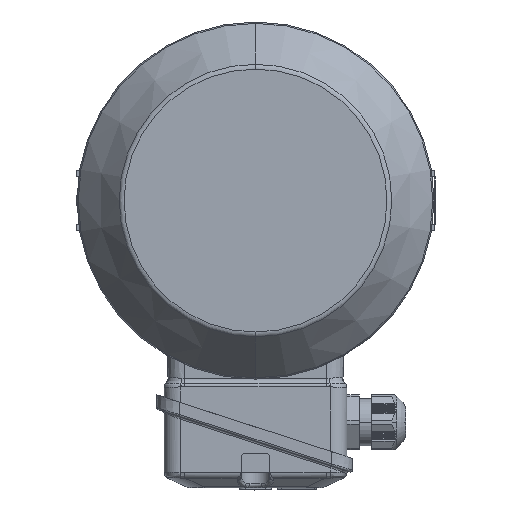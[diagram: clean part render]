
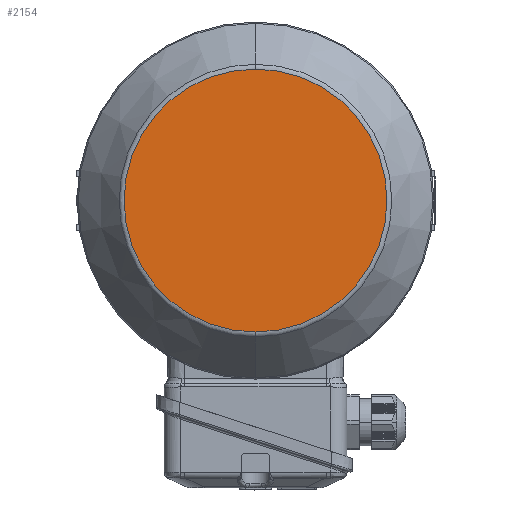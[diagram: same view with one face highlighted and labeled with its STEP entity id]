
A CAD part, left-side view. The second image highlights one B-rep face of the part: STEP entity #2154.
In plain terms, the highlighted planar face has unit normal (-1, 0, 0).
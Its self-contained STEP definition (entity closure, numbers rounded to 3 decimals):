
#1319 = AXIS2_PLACEMENT_3D ( 'NONE', #11390, #14589, #5780 ) ;
#1967 = CARTESIAN_POINT ( 'NONE',  ( -164., 0., -64.037 ) ) ;
#2154 = ADVANCED_FACE ( 'NONE', ( #34025 ), #6594, .T. ) ;
#3480 = VERTEX_POINT ( 'NONE', #1967 ) ;
#5141 = CARTESIAN_POINT ( 'NONE',  ( -164., 0., 0. ) ) ;
#5780 = DIRECTION ( 'NONE',  ( 0., 0., -1. ) ) ;
#6594 = PLANE ( 'NONE',  #12163 ) ;
#9938 = ORIENTED_EDGE ( 'NONE', *, *, #29002, .F. ) ;
#9993 = DIRECTION ( 'NONE',  ( -1., 0., 0. ) ) ;
#11390 = CARTESIAN_POINT ( 'NONE',  ( -164., 0., 0. ) ) ;
#12163 = AXIS2_PLACEMENT_3D ( 'NONE', #18811, #9993, #22009 ) ;
#14589 = DIRECTION ( 'NONE',  ( 1., 0., 0. ) ) ;
#15372 = CIRCLE ( 'NONE', #1319, 64.037 ) ;
#17367 = DIRECTION ( 'NONE',  ( 1., 0., 0. ) ) ;
#18589 = CIRCLE ( 'NONE', #31376, 64.037 ) ;
#18811 = CARTESIAN_POINT ( 'NONE',  ( -164., 0., -64.037 ) ) ;
#20190 = EDGE_CURVE ( 'NONE', #36405, #3480, #18589, .T. ) ;
#22009 = DIRECTION ( 'NONE',  ( 0., 1., 0. ) ) ;
#27071 = EDGE_LOOP ( 'NONE', ( #9938, #31195 ) ) ;
#29002 = EDGE_CURVE ( 'NONE', #3480, #36405, #15372, .T. ) ;
#29581 = DIRECTION ( 'NONE',  ( 0., 0., -1. ) ) ;
#30520 = CARTESIAN_POINT ( 'NONE',  ( -164., 0., 64.037 ) ) ;
#31195 = ORIENTED_EDGE ( 'NONE', *, *, #20190, .F. ) ;
#31376 = AXIS2_PLACEMENT_3D ( 'NONE', #5141, #17367, #29581 ) ;
#34025 = FACE_OUTER_BOUND ( 'NONE', #27071, .T. ) ;
#36405 = VERTEX_POINT ( 'NONE', #30520 ) ;
